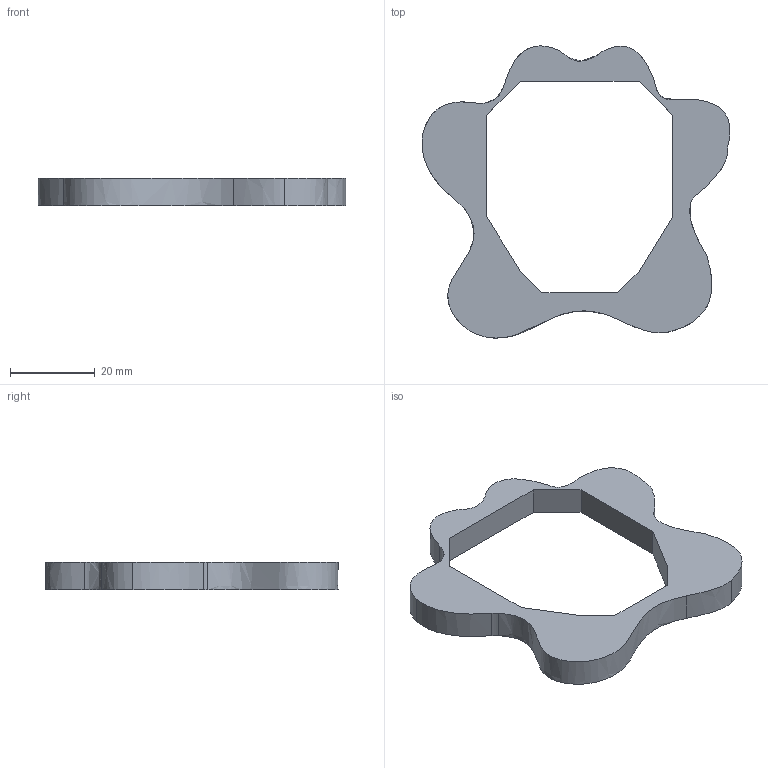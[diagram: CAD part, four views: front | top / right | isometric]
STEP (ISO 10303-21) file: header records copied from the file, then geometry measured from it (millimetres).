
FILE_DESCRIPTION(('HOOPS Exchange Step'),'2;1');
FILE_NAME('C:\Users\Alvin Nguyen\AppData\Local\Packages\Shapr3D.Shapr3D_dvv5p1vgwv6mp\TempState\export\temp_export','2026-07-04T23:54:53+19:00',('Alvin Nguyen'),('Shapr3D Limited'),'HOOPS Exchange 2026.3','Shapr3D','Authorized');
FILE_SCHEMA( ('AP242_MANAGED_MODEL_BASED_3D_ENGINEERING_MIM_LF {1 0 10303 442 1 1 4}') );
Length unit declared in the file: millimetre
Products named in the file (1): middle
Bounding box: 72.66 x 69 x 6.5 mm (x, y, z)
Volume: 11390.2 mm3; surface area: 6227 mm2
Topology: 1 solids, 1 shells, 27 faces, 75 edges, 50 vertices
Faces by surface type: bspline 13, plane 12, cylinder 2
Entity records: 1645 total; most frequent: CARTESIAN_POINT 997, ORIENTED_EDGE 150, DIRECTION 85, EDGE_CURVE 75, VERTEX_POINT 50, VECTOR 45, LINE 45, EDGE_LOOP 29
